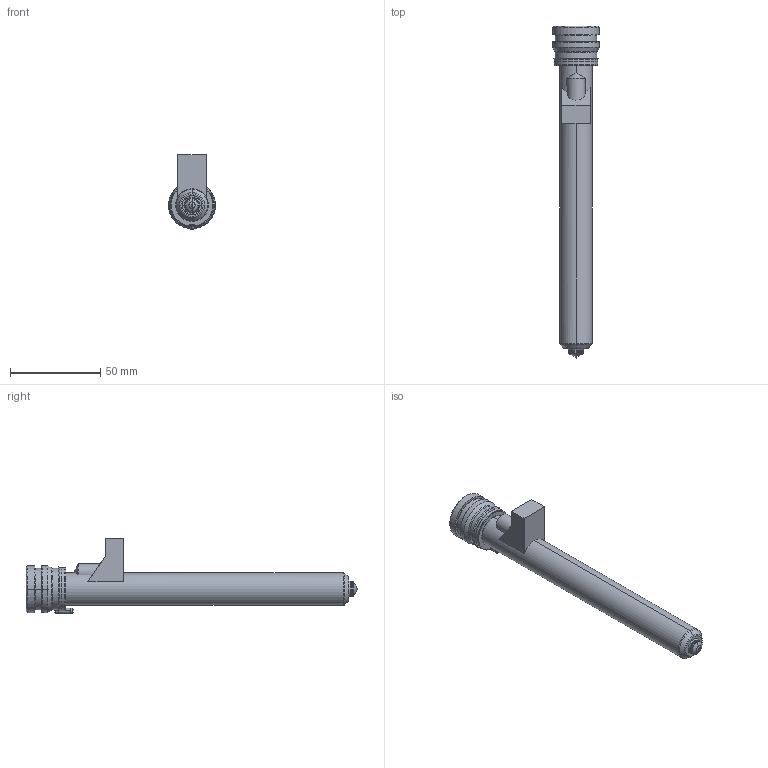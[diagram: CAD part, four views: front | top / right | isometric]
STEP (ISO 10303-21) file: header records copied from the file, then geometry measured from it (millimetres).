
FILE_DESCRIPTION((''),'2;1');
FILE_NAME('MPN-08-24-VSA8-166-M','2026-02-05T13:34:59',('UPTIO'),('Thermoplay S.p.A.'),'CREO PARAMETRIC BY PTC INC, 2023494','CREO PARAMETRIC BY PTC INC, 2023494','');
FILE_SCHEMA(('CONFIG_CONTROL_DESIGN','SHAPE_APPEARANCE_LAYERS_GROUPS'));
Length unit declared in the file: millimetre
Products named in the file (1): MPN-08-24-VSA8-166-M
Bounding box: 26 x 184 x 41.5 mm (x, y, z)
Volume: 34719.5 mm3; surface area: 46443.2 mm2
Topology: 2 solids, 3 shells, 527 faces, 1374 edges, 846 vertices
Faces by surface type: cylinder 176, plane 143, bspline 75, torus 60, cone 58, sphere 9, extrusion 6
Entity records: 27275 total; most frequent: CARTESIAN_POINT 11796, ORIENTED_EDGE 2730, DIRECTION 2497, EDGE_CURVE 1365, AXIS2_PLACEMENT_3D 975, VERTEX_POINT 846, EDGE_LOOP 557, VECTOR 547
